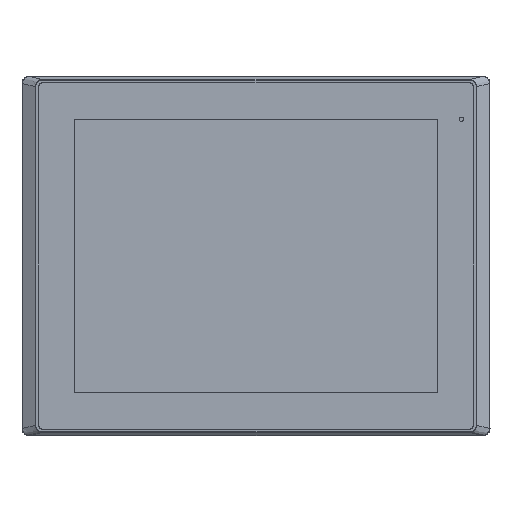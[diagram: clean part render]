
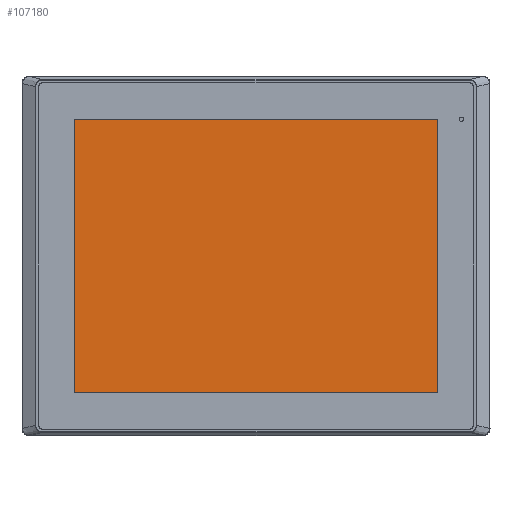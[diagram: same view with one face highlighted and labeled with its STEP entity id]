
A CAD part, top view. The second image highlights one B-rep face of the part: STEP entity #107180.
In plain terms, the highlighted planar face has unit normal (0, 0, 1).
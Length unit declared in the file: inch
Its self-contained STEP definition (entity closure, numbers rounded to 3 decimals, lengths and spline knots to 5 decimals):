
#7693 = EDGE_CURVE ( 'NONE', #26007, #26467, #12454, .T. ) ;
#11486 = CARTESIAN_POINT ( 'NONE',  ( 4.88189, 3.66929, 0.02362 ) ) ;
#12150 = DIRECTION ( 'NONE',  ( -1., 0., 0. ) ) ;
#12454 = LINE ( 'NONE', #53533, #49863 ) ;
#13637 = CARTESIAN_POINT ( 'NONE',  ( 0., 0., 0.02362 ) ) ;
#16119 = DIRECTION ( 'NONE',  ( 0., 1., 0. ) ) ;
#18886 = VECTOR ( 'NONE', #16119, 39.37008 ) ;
#23597 = LINE ( 'NONE', #11486, #25324 ) ;
#25324 = VECTOR ( 'NONE', #12150, 39.37008 ) ;
#26007 = VERTEX_POINT ( 'NONE', #36704 ) ;
#26467 = VERTEX_POINT ( 'NONE', #59751 ) ;
#28112 = CARTESIAN_POINT ( 'NONE',  ( -4.88189, 3.66929, 0.02362 ) ) ;
#28333 = VECTOR ( 'NONE', #97217, 39.37008 ) ;
#30281 = CARTESIAN_POINT ( 'NONE',  ( 4.88189, 3.66929, 0.02362 ) ) ;
#32518 = ORIENTED_EDGE ( 'NONE', *, *, #7693, .T. ) ;
#33209 = PLANE ( 'NONE',  #36948 ) ;
#36704 = CARTESIAN_POINT ( 'NONE',  ( -4.88189, -3.66929, 0.02362 ) ) ;
#36948 = AXIS2_PLACEMENT_3D ( 'NONE', #13637, #86381, #128124 ) ;
#43566 = EDGE_CURVE ( 'NONE', #81820, #72235, #23597, .T. ) ;
#45126 = CARTESIAN_POINT ( 'NONE',  ( 4.88189, -3.66929, 0.02362 ) ) ;
#46072 = DIRECTION ( 'NONE',  ( 1., 0., 0. ) ) ;
#49863 = VECTOR ( 'NONE', #46072, 39.37008 ) ;
#51911 = ORIENTED_EDGE ( 'NONE', *, *, #52774, .T. ) ;
#52774 = EDGE_CURVE ( 'NONE', #26467, #81820, #67953, .T. ) ;
#53533 = CARTESIAN_POINT ( 'NONE',  ( -4.88189, -3.66929, 0.02362 ) ) ;
#59751 = CARTESIAN_POINT ( 'NONE',  ( 4.88189, -3.66929, 0.02362 ) ) ;
#66767 = EDGE_LOOP ( 'NONE', ( #74919, #32518, #51911, #67249 ) ) ;
#67249 = ORIENTED_EDGE ( 'NONE', *, *, #43566, .T. ) ;
#67953 = LINE ( 'NONE', #45126, #18886 ) ;
#72235 = VERTEX_POINT ( 'NONE', #28112 ) ;
#74919 = ORIENTED_EDGE ( 'NONE', *, *, #117846, .T. ) ;
#81820 = VERTEX_POINT ( 'NONE', #30281 ) ;
#86381 = DIRECTION ( 'NONE',  ( 0., 0., 1. ) ) ;
#97217 = DIRECTION ( 'NONE',  ( 0., -1., 0. ) ) ;
#105327 = LINE ( 'NONE', #106651, #28333 ) ;
#106651 = CARTESIAN_POINT ( 'NONE',  ( -4.88189, 3.66929, 0.02362 ) ) ;
#107180 = ADVANCED_FACE ( 'NONE', ( #126834 ), #33209, .T. ) ;
#117846 = EDGE_CURVE ( 'NONE', #72235, #26007, #105327, .T. ) ;
#126834 = FACE_OUTER_BOUND ( 'NONE', #66767, .T. ) ;
#128124 = DIRECTION ( 'NONE',  ( -1., 0., 0. ) ) ;
